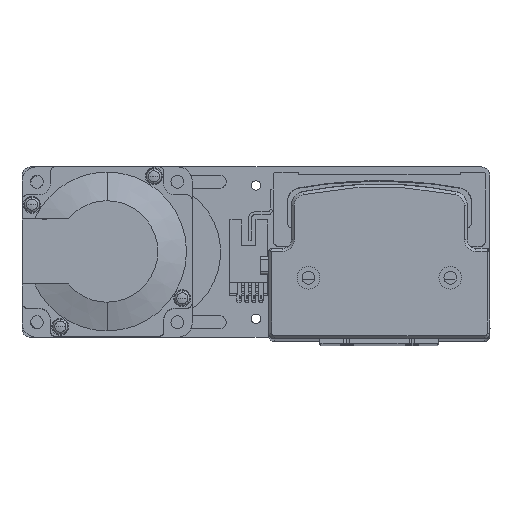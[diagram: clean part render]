
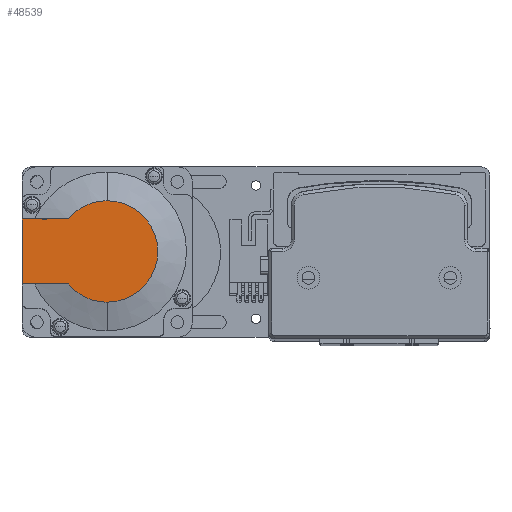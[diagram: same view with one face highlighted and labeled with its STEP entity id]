
A CAD part, top view. The second image highlights one B-rep face of the part: STEP entity #48539.
In plain terms, the highlighted planar face has unit normal (0, 0, 1) as drawn and (-1, 0, 0) by its records, which use the part's own axes.
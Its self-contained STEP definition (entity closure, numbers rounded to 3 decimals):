
#1952 = ORIENTED_EDGE ( 'NONE', *, *, #9294, .T. ) ;
#2170 = PLANE ( 'NONE',  #47968 ) ;
#2346 = CIRCLE ( 'NONE', #14514, 17.881 ) ;
#3677 = LINE ( 'NONE', #21185, #14890 ) ;
#6212 = VERTEX_POINT ( 'NONE', #38456 ) ;
#6560 = VERTEX_POINT ( 'NONE', #31319 ) ;
#6914 = CIRCLE ( 'NONE', #30844, 17.881 ) ;
#8131 = VECTOR ( 'NONE', #37423, 1000. ) ;
#9294 = EDGE_CURVE ( 'NONE', #22022, #34515, #6914, .T. ) ;
#9336 = LINE ( 'NONE', #11038, #8131 ) ;
#10144 = ORIENTED_EDGE ( 'NONE', *, *, #17720, .T. ) ;
#11038 = CARTESIAN_POINT ( 'NONE',  ( -118.5, 0., 11.45 ) ) ;
#11585 = CARTESIAN_POINT ( 'NONE',  ( -118.5, -8.941, -11.45 ) ) ;
#11641 = DIRECTION ( 'NONE',  ( -1., 0., 0. ) ) ;
#11881 = CARTESIAN_POINT ( 'NONE',  ( -118.5, 0., 0. ) ) ;
#13590 = LINE ( 'NONE', #11585, #42269 ) ;
#14514 = AXIS2_PLACEMENT_3D ( 'NONE', #39664, #17272, #43424 ) ;
#14890 = VECTOR ( 'NONE', #43359, 1000. ) ;
#15643 = DIRECTION ( 'NONE',  ( 0., 0., -1. ) ) ;
#17272 = DIRECTION ( 'NONE',  ( -1., 0., 0. ) ) ;
#17335 = CARTESIAN_POINT ( 'NONE',  ( -118.5, -8.941, 0. ) ) ;
#17479 = CIRCLE ( 'NONE', #34905, 17.881 ) ;
#17720 = EDGE_CURVE ( 'NONE', #35313, #46498, #13590, .T. ) ;
#18869 = ORIENTED_EDGE ( 'NONE', *, *, #28266, .T. ) ;
#20468 = ORIENTED_EDGE ( 'NONE', *, *, #40070, .T. ) ;
#20944 = CARTESIAN_POINT ( 'NONE',  ( -118.5, 0., -17.881 ) ) ;
#21139 = DIRECTION ( 'NONE',  ( 0., 0., 1. ) ) ;
#21185 = CARTESIAN_POINT ( 'NONE',  ( -118.5, 30., 25. ) ) ;
#22022 = VERTEX_POINT ( 'NONE', #20944 ) ;
#22113 = EDGE_LOOP ( 'NONE', ( #10144, #20468, #1952, #18869, #41305, #35958 ) ) ;
#26668 = EDGE_CURVE ( 'NONE', #6212, #6560, #9336, .T. ) ;
#28266 = EDGE_CURVE ( 'NONE', #34515, #6560, #17479, .T. ) ;
#30844 = AXIS2_PLACEMENT_3D ( 'NONE', #34198, #11641, #37877 ) ;
#31065 = CARTESIAN_POINT ( 'NONE',  ( -118.5, 30., -11.45 ) ) ;
#31319 = CARTESIAN_POINT ( 'NONE',  ( -118.5, 13.735, 11.45 ) ) ;
#34198 = CARTESIAN_POINT ( 'NONE',  ( -118.5, 0., 0. ) ) ;
#34515 = VERTEX_POINT ( 'NONE', #35163 ) ;
#34542 = FACE_OUTER_BOUND ( 'NONE', #22113, .T. ) ;
#34905 = AXIS2_PLACEMENT_3D ( 'NONE', #11881, #38084, #15643 ) ;
#35163 = CARTESIAN_POINT ( 'NONE',  ( -118.5, 0., 17.881 ) ) ;
#35313 = VERTEX_POINT ( 'NONE', #31065 ) ;
#35958 = ORIENTED_EDGE ( 'NONE', *, *, #43236, .F. ) ;
#37423 = DIRECTION ( 'NONE',  ( 0., -1., 0. ) ) ;
#37823 = DIRECTION ( 'NONE',  ( 0., -1., 0. ) ) ;
#37877 = DIRECTION ( 'NONE',  ( 0., 0., -1. ) ) ;
#38084 = DIRECTION ( 'NONE',  ( -1., 0., 0. ) ) ;
#38456 = CARTESIAN_POINT ( 'NONE',  ( -118.5, 30., 11.45 ) ) ;
#39664 = CARTESIAN_POINT ( 'NONE',  ( -118.5, 0., 0. ) ) ;
#40070 = EDGE_CURVE ( 'NONE', #46498, #22022, #2346, .T. ) ;
#41263 = CARTESIAN_POINT ( 'NONE',  ( -118.5, 13.735, -11.45 ) ) ;
#41305 = ORIENTED_EDGE ( 'NONE', *, *, #26668, .F. ) ;
#42269 = VECTOR ( 'NONE', #37823, 1000. ) ;
#43236 = EDGE_CURVE ( 'NONE', #35313, #6212, #3677, .T. ) ;
#43359 = DIRECTION ( 'NONE',  ( 0., 0., 1. ) ) ;
#43424 = DIRECTION ( 'NONE',  ( 0., 0., -1. ) ) ;
#43490 = DIRECTION ( 'NONE',  ( -1., 0., 0. ) ) ;
#46498 = VERTEX_POINT ( 'NONE', #41263 ) ;
#47968 = AXIS2_PLACEMENT_3D ( 'NONE', #17335, #43490, #21139 ) ;
#48539 = ADVANCED_FACE ( 'NONE', ( #34542 ), #2170, .T. ) ;
